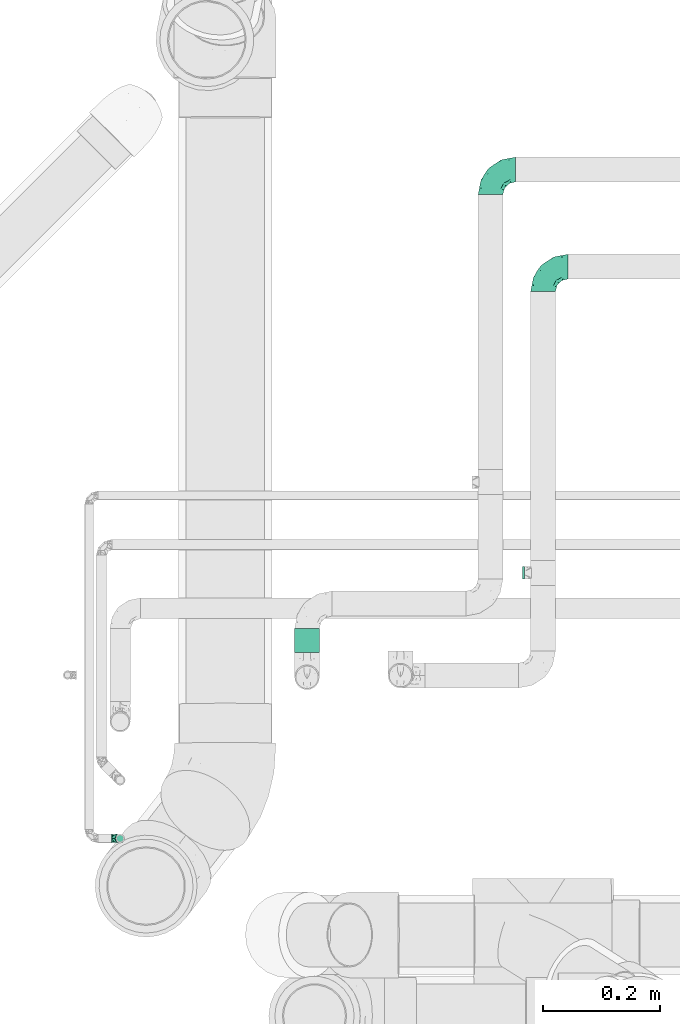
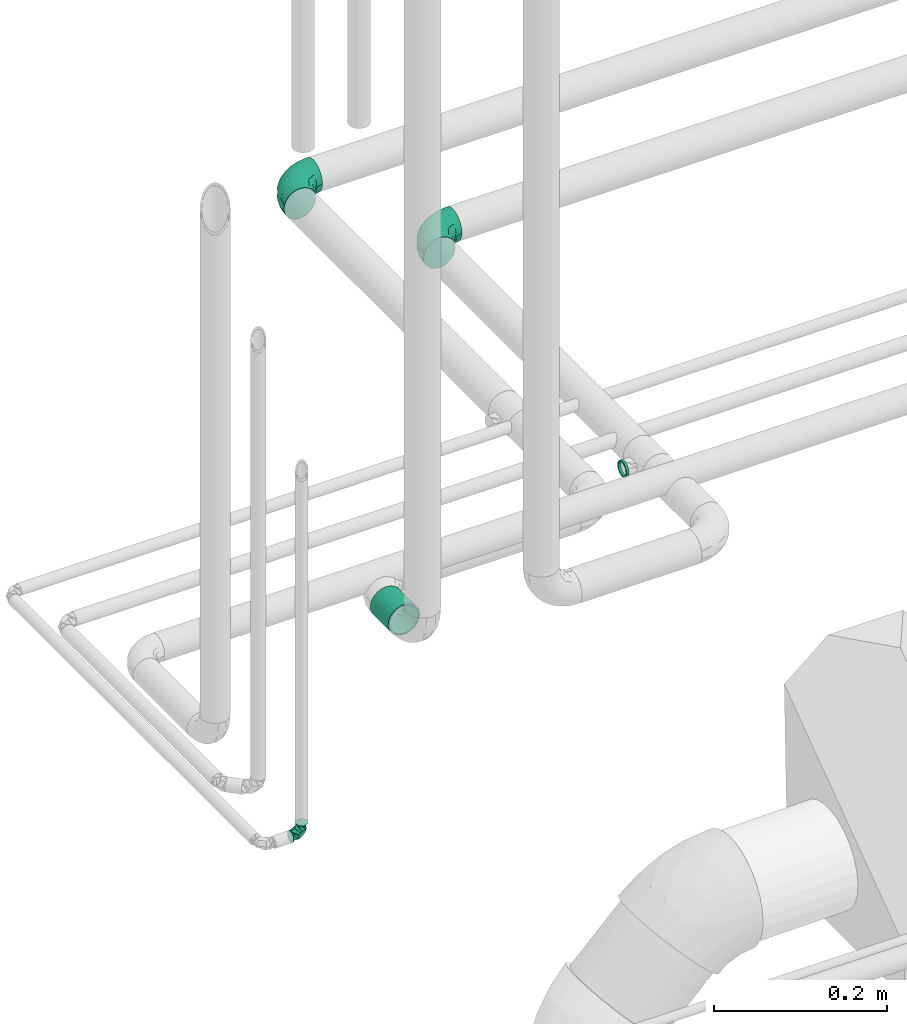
# One storey, part 90 of 156: 3 flow fittings, 2 flow segments.
"""IFC2X3 building model written with IfcOpenShell, lengths in millimetres."""

from ifc_helpers import new_model, entity, si_unit, converted_unit, derived_unit, direction, frame, origin_with_axes, origin_2d_with_axis, place, context, subcontext, project, spatial, hollow_circle, extrude, open_shell, surface_model, source, transform, mapped, type_object, element, save


model = new_model("IFC2X3")

# Units and contexts
model_context = context("Model", 3, precision=0.01, world=frame((0.0, 4.29681676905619e-09, 0.0)), true_north=direction((4.01073788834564e-13, 1.0)))
plan_context = context("Plan", 3, precision=0.01, world=frame((0.0, 4.29681676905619e-09, 0.0)), true_north=direction((4.01073788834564e-13, 1.0)))
body_context = subcontext(model_context, "Body", "Model", "MODEL_VIEW")
ifc_project = project(units=[converted_unit("PLANEANGLEUNIT", "DEGREE", entity("IfcPositiveLengthMeasure", 0.0174532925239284), si_unit("PLANEANGLEUNIT", "RADIAN"), dimensions=[0, 0, 0, 0, 0, 0, 0]), si_unit("AREAUNIT", "SQUARE_METRE"), si_unit("LENGTHUNIT", "METRE", prefix="MILLI"), si_unit("MASSUNIT", "GRAM", prefix="KILO"), si_unit("POWERUNIT", "WATT"), si_unit("PRESSUREUNIT", "PASCAL", prefix="KILO"), si_unit("FORCEUNIT", "NEWTON", prefix="KILO"), si_unit("ELECTRICVOLTAGEUNIT", "VOLT"), si_unit("ELECTRICCURRENTUNIT", "AMPERE"), si_unit("THERMODYNAMICTEMPERATUREUNIT", "DEGREE_CELSIUS"), si_unit("TIMEUNIT", "SECOND"), si_unit("VOLUMEUNIT", "CUBIC_METRE"), derived_unit("LINEARVELOCITYUNIT", [(si_unit("LENGTHUNIT", "METRE"), 1), (si_unit("TIMEUNIT", "SECOND"), -1)]), derived_unit("VOLUMETRICFLOWRATEUNIT", [(si_unit("VOLUMEUNIT", "CUBIC_METRE"), 1), (si_unit("TIMEUNIT", "SECOND"), -1)]), derived_unit("THERMALTRANSMITTANCEUNIT", [(si_unit("POWERUNIT", "WATT"), 1), (si_unit("THERMODYNAMICTEMPERATUREUNIT", "KELVIN"), -1), (si_unit("AREAUNIT", "SQUARE_METRE"), -1)]), derived_unit("SOUNDPRESSUREUNIT", [(si_unit("PRESSUREUNIT", "PASCAL"), 1)])], contexts=[model_context, plan_context])

# Site, building, storey
site_placement = place(None, frame((0.0, -4.29681676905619e-09, 0.0), z_axis=(0.0, 0.0, 1.0), x_axis=(1.0, 0.0, 0.0)))
site = spatial("IfcSite", under=ifc_project, at=site_placement, CompositionType="ELEMENT")
building_placement = place(site_placement, frame((0.0, 4.29681676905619e-09, 0.0), z_axis=(0.0, 0.0, 1.0), x_axis=(1.0, 0.0, 0.0)))
building = spatial("IfcBuilding", under=site, at=building_placement, Name="mc-building", CompositionType="ELEMENT")
storey_placement = place(building_placement, frame((0.0, 0.0, 205200.0), z_axis=(0.0, 0.0, 1.0), x_axis=(1.0, 0.0, 0.0)))
storey = spatial("IfcBuildingStorey", under=building, at=storey_placement, Name="Nivå D + 1,2 m", CompositionType="ELEMENT", Elevation=205200.0)

# Flow fittings
pipe_fitting_type_1 = type_object("IfcPipeFittingType", Name="magi_pipe_fe_elbow_short_001", PredefinedType="BEND")
shared_shape_1 = source(origin_with_axes(), body_context, "Body", "SurfaceModel", [
    surface_model("IfcShellBasedSurfaceModel", [(-42.4, 10.6, -18.35974), (-42.4, 5.48696, -20.47763), (-42.4, 0.0, -21.2), (-42.4, 14.99066, -14.99066), (-42.4, 20.47763, -5.48696), (-42.4, 18.35974, -10.6), (-42.4, -14.99066, 14.99066), (-42.4, -21.2, 0.0), (-42.4, -10.6, -18.35974), (-42.4, -14.99066, -14.99066), (-42.4, -5.48696, -20.47763), (-42.4, -18.35974, -10.6), (-42.4, -20.47763, -5.48696), (-42.4, 10.6, 18.35974), (-42.4, 20.47763, 5.48696), (-42.4, 18.35974, 10.6), (-42.4, 14.99066, 14.99066), (-42.4, 5.48696, 20.47763), (-42.4, 0.0, 21.2), (-42.4, -20.47763, 5.48696), (-42.4, -18.35974, 10.6), (-42.4, -10.6, 18.35974), (-42.4, -5.48696, 20.47763), (-42.4, 21.2, 0.0), (0.0, 42.4, -21.2), (-5.48696, 42.4, -20.47763), (-10.6, 42.4, -18.35974), (-14.99066, 42.4, -14.99066), (-18.35974, 42.4, -10.6), (-20.47763, 42.4, -5.48696), (21.2, 42.4, 0.0), (5.48696, 42.4, -20.47763), (14.99066, 42.4, -14.99066), (10.6, 42.4, -18.35974), (18.35974, 42.4, -10.6), (20.47763, 42.4, -5.48696), (14.99066, 42.4, 14.99066), (-20.47763, 42.4, 5.48696), (-10.6, 42.4, 18.35974), (-14.99066, 42.4, 14.99066), (-18.35974, 42.4, 10.6), (-5.48696, 42.4, 20.47763), (0.0, 42.4, 21.2), (18.35974, 42.4, 10.6), (20.47763, 42.4, 5.48696), (5.48696, 42.4, 20.47763), (10.6, 42.4, 18.35974), (-21.2, 42.4, 0.0), (-31.10239, -16.47009, 11.90111), (-27.83957, -12.231, 15.79732), (-30.23067, -18.77937, 0.0), (-18.74048, -13.50096, 10.69998), (-28.17586, -18.50359, 6.61185), (18.50359, 28.17586, 6.61185), (14.95929, 16.60735, 5.43468), (16.35874, 18.06133, 0.0), (-20.72313, 33.83635, 9.21426), (-17.70981, 33.00599, 13.92769), (-31.16033, -8.01664, 19.07348), (-32.38682, -2.80842, 20.83743), (-29.68688, 3.24967, 21.16387), (-7.74467, -9.46536, 0.0), (-16.60735, -14.95929, 5.43468), (-18.06133, -16.35874, 0.0), (-16.37932, -5.14532, 17.61254), (-21.10659, -0.19025, 20.54817), (-1.82445, -3.58377, 9.55223), (-0.35533, 0.43745, 12.66367), (-7.20655, -5.07682, 13.06146), (-33.14056, 17.6728, 13.91288), (-7.36799, 20.84806, 21.16196), (-15.70315, 15.70315, 20.68489), (-12.62356, 9.26422, 21.0908), (-36.67879, 12.83836, 17.27427), (-7.91358, 36.5686, 19.85759), (-2.90555, 31.71221, 21.14793), (-33.84689, 20.71971, 9.21285), (-33.51649, 22.58113, 4.66115), (-26.3226, 26.3226, 7.92474), (-32.67995, 8.31454, 20.02643), (-5.53379, 14.19921, 20.81623), (-10.53385, 3.88918, 19.79653), (-2.16577, 11.45378, 19.48254), (-3.78693, 3.78693, 17.3328), (12.231, 27.83957, 15.79732), (13.50096, 18.74047, 10.69998), (16.47009, 31.10239, 11.90111), (-22.53806, 14.38475, 19.60876), (-23.29615, 9.08095, 20.82061), (2.80842, 32.38682, 20.83743), (8.01664, 31.16033, 19.07348), (5.14532, 16.37932, 17.61254), (18.77937, 30.23067, 0.0), (-20.80278, 5.19491, 21.19095), (-19.62579, 22.38752, 17.42006), (-29.19336, 14.39093, 17.85259), (-22.31569, 34.20044, 4.54807), (-26.56962, 27.80621, 3.73106), (9.67657, 17.17133, 14.49993), (-24.04026, 31.8, 0.0), (-9.16861, 28.72652, 20.19004), (-12.09761, 21.9456, 20.37969), (-15.36991, 27.40112, 17.818), (-16.88976, 20.52477, 19.2896), (-12.95169, 35.54896, 17.36222), (-17.17133, -9.67657, 14.49993), (-21.98655, 28.10245, 11.99898), (-22.34699, 23.67592, 15.01692), (-27.22822, 22.77969, 11.82161), (0.19025, 21.10658, 20.54817), (4.8276, 7.36347, 13.42842), (-10.06209, -9.46364, 9.95114), (1.25876, -2.7536, 5.73797), (6.43781, 3.77591, 7.40371), (6.57528, 2.20066, 3.17705), (10.91934, 8.84313, 5.00748), (10.64415, 10.99764, 8.89767), (-31.8, 24.04026, 0.0), (-5.71381, -8.43063, 6.15529), (2.57199, -2.57199, 0.0), (9.46536, 7.74467, 0.0), (-17.17133, -9.67657, -14.49993), (-27.83957, -12.231, -15.79732), (-16.37932, -5.14532, -17.61254), (-18.74048, -13.50096, -10.69998), (-33.00599, 17.70981, -13.92769), (-35.54896, 12.95169, -17.36222), (-34.20044, 22.31569, -4.54807), (-28.17586, -18.50359, -6.61185), (-26.3226, 26.3226, -7.92474), (-33.83635, 20.72313, -9.21426), (-16.60735, -14.95929, -5.43468), (-20.52477, 16.88976, -19.2896), (-21.9456, 12.0976, -20.37969), (-27.40112, 15.36991, -17.818), (-12.83836, 36.67879, -17.27427), (-17.6728, 33.14056, -13.91288), (8.01664, 31.16033, -19.07348), (5.14532, 16.37932, -17.61254), (0.19025, 21.10658, -20.54817), (-36.5686, 7.91358, -19.85759), (-31.10239, -16.47009, -11.90111), (-31.16033, -8.01664, -19.07348), (-14.38475, 22.53806, -19.60876), (-8.31454, 32.67995, -20.02643), (-9.08095, 23.29615, -20.82061), (-32.38682, -2.80842, -20.83743), (-20.84806, 7.36799, -21.16196), (-15.70315, 15.70314, -20.68489), (-9.26422, 12.62356, -21.0908), (-31.71221, 2.90555, -21.14793), (-22.58113, 33.51649, -4.66115), (-20.71971, 33.84689, -9.21285), (-28.72652, 9.16861, -20.19004), (-27.80621, 26.56962, -3.73106), (-5.19491, 20.80278, -21.19095), (-22.38752, 19.62579, -17.42006), (-14.39093, 29.19336, -17.85259), (2.80842, 32.38682, -20.83743), (-3.24967, 29.68688, -21.16387), (16.47009, 31.10239, -11.90111), (12.231, 27.83957, -15.79732), (6.57528, 2.20067, -3.17705), (10.91934, 8.84313, -5.00749), (-14.19921, 5.53379, -20.81623), (-3.88918, 10.53385, -19.79653), (-11.45378, 2.16577, -19.48254), (1.25876, -2.7536, -5.73797), (-5.71381, -8.43063, -6.15529), (-1.82445, -3.58377, -9.55223), (13.50096, 18.74048, -10.69998), (18.50359, 28.17586, -6.61185), (14.95929, 16.60735, -5.43468), (-28.10245, 21.98655, -11.99898), (9.67657, 17.17133, -14.49993), (10.64415, 10.99764, -8.89767), (4.8276, 7.36347, -13.42842), (-23.67592, 22.34699, -15.01692), (-22.77969, 27.22822, -11.82161), (-21.10658, -0.19025, -20.54817), (-3.78693, 3.78693, -17.3328), (-7.20655, -5.07682, -13.06146), (-10.06209, -9.46364, -9.95113), (-0.35533, 0.43745, -12.66367), (6.43781, 3.77591, -7.40371)], [open_shell([[[0, 1, 2]], [[3, 0, 2]], [[4, 5, 3]], [[2, 4, 3]], [[6, 2, 7]], [[8, 9, 10]], [[11, 10, 9]], [[12, 7, 11]], [[2, 10, 11]], [[11, 7, 2]], [[6, 4, 2]], [[13, 14, 4]], [[15, 14, 16]], [[4, 6, 13]], [[16, 14, 13]], [[17, 13, 18]], [[19, 20, 7]], [[7, 20, 6]], [[21, 22, 6]], [[18, 6, 22]], [[6, 18, 13]], [[23, 4, 14]], [[24, 25, 26]], [[24, 26, 27]], [[27, 28, 29]], [[27, 29, 24]], [[24, 29, 30]], [[31, 32, 33]], [[31, 24, 32]], [[34, 30, 35]], [[32, 24, 34]], [[24, 30, 34]], [[29, 36, 30]], [[29, 37, 38]], [[39, 37, 40]], [[36, 29, 38]], [[38, 37, 39]], [[41, 42, 38]], [[30, 43, 44]], [[36, 43, 30]], [[36, 45, 46]], [[45, 36, 42]], [[38, 42, 36]], [[37, 29, 47]], [[6, 48, 49]], [[19, 7, 50]], [[51, 48, 52]], [[53, 54, 55]], [[48, 6, 20]], [[19, 52, 20]], [[40, 56, 57]], [[49, 21, 6]], [[49, 58, 21]], [[18, 59, 60]], [[61, 62, 63]], [[58, 64, 65]], [[66, 67, 68]], [[15, 16, 69]], [[70, 71, 72]], [[13, 73, 16]], [[22, 59, 18]], [[41, 74, 75]], [[18, 60, 17]], [[15, 69, 76]], [[16, 73, 69]], [[23, 14, 77]], [[14, 15, 76]], [[77, 76, 78]], [[17, 79, 13]], [[80, 81, 82]], [[68, 83, 64]], [[84, 36, 46]], [[85, 86, 84]], [[87, 79, 88]], [[21, 58, 22]], [[42, 89, 45]], [[53, 44, 43]], [[42, 41, 75]], [[84, 90, 91]], [[43, 86, 53]], [[92, 44, 53]], [[86, 43, 36]], [[90, 46, 45]], [[53, 55, 92]], [[88, 93, 72]], [[54, 53, 85]], [[87, 94, 95]], [[78, 96, 97]], [[98, 84, 91]], [[99, 96, 47]], [[79, 17, 60]], [[96, 78, 56]], [[62, 52, 63]], [[57, 39, 40]], [[100, 70, 75]], [[101, 102, 103]], [[19, 50, 52]], [[104, 38, 39]], [[74, 41, 38]], [[57, 102, 104]], [[105, 64, 49]], [[90, 84, 46]], [[40, 37, 56]], [[56, 106, 57]], [[102, 57, 107]], [[95, 107, 69]], [[76, 108, 78]], [[100, 101, 70]], [[89, 75, 109]], [[64, 58, 49]], [[63, 52, 50]], [[59, 58, 65]], [[105, 49, 51]], [[64, 83, 81]], [[89, 90, 45]], [[30, 44, 92]], [[109, 82, 91]], [[109, 91, 90]], [[91, 83, 110]], [[111, 68, 105]], [[66, 68, 111]], [[62, 51, 52]], [[66, 112, 113]], [[114, 115, 113]], [[98, 85, 84]], [[52, 48, 20]], [[49, 48, 51]], [[84, 86, 36]], [[53, 86, 85]], [[88, 79, 60]], [[73, 79, 95]], [[96, 56, 37]], [[78, 108, 106]], [[87, 103, 94]], [[100, 74, 104]], [[108, 69, 107]], [[78, 97, 77]], [[88, 72, 71]], [[109, 75, 70]], [[81, 72, 65]], [[70, 72, 80]], [[75, 89, 42]], [[90, 89, 109]], [[58, 59, 22]], [[60, 59, 65]], [[67, 83, 68]], [[110, 113, 116]], [[88, 60, 93]], [[87, 88, 71]], [[103, 87, 71]], [[79, 87, 95]], [[101, 103, 71]], [[94, 103, 102]], [[47, 96, 37]], [[96, 99, 97]], [[99, 117, 97]], [[97, 117, 77]], [[23, 77, 117]], [[14, 76, 77]], [[60, 65, 93]], [[65, 72, 93]], [[70, 101, 71]], [[102, 101, 100]], [[69, 108, 76]], [[106, 108, 107]], [[57, 106, 107]], [[78, 106, 56]], [[57, 104, 39]], [[100, 104, 102]], [[102, 107, 94]], [[95, 94, 107]], [[64, 81, 65]], [[82, 81, 83]], [[91, 82, 83]], [[80, 82, 109]], [[70, 80, 109]], [[81, 80, 72]], [[79, 73, 13]], [[69, 73, 95]], [[104, 74, 38]], [[75, 74, 100]], [[62, 61, 118]], [[111, 62, 118]], [[113, 115, 116]], [[119, 118, 61]], [[111, 105, 51]], [[113, 112, 114]], [[120, 55, 54]], [[68, 64, 105]], [[91, 110, 98]], [[116, 98, 110]], [[62, 111, 51]], [[66, 111, 118]], [[112, 66, 118]], [[67, 113, 110]], [[118, 119, 112]], [[114, 112, 119]], [[119, 120, 114]], [[115, 120, 54]], [[120, 115, 114]], [[116, 54, 85]], [[54, 116, 115]], [[116, 85, 98]], [[113, 67, 66]], [[83, 67, 110]], [[121, 122, 123]], [[122, 121, 124]], [[5, 125, 3]], [[3, 126, 0]], [[117, 127, 23]], [[50, 12, 128]], [[127, 129, 130]], [[128, 131, 63]], [[132, 133, 134]], [[27, 135, 136]], [[137, 138, 139]], [[0, 140, 1]], [[128, 11, 141]], [[142, 8, 10]], [[128, 63, 50]], [[5, 4, 130]], [[11, 9, 141]], [[143, 144, 145]], [[146, 10, 2]], [[147, 148, 149]], [[11, 128, 12]], [[124, 141, 122]], [[150, 2, 1]], [[151, 152, 129]], [[125, 134, 126]], [[153, 147, 150]], [[127, 154, 129]], [[145, 155, 149]], [[47, 29, 151]], [[143, 156, 157]], [[152, 29, 28]], [[24, 158, 159]], [[122, 9, 8]], [[27, 26, 135]], [[144, 26, 25]], [[32, 160, 161]], [[24, 31, 158]], [[120, 162, 163]], [[130, 125, 5]], [[27, 136, 28]], [[1, 140, 150]], [[33, 161, 137]], [[142, 122, 8]], [[24, 159, 25]], [[164, 165, 166]], [[167, 168, 169]], [[34, 160, 32]], [[161, 33, 32]], [[170, 160, 171]], [[131, 128, 124]], [[30, 92, 35]], [[35, 92, 171]], [[172, 171, 55]], [[35, 171, 34]], [[144, 25, 159]], [[130, 173, 125]], [[174, 175, 176]], [[136, 152, 28]], [[33, 137, 31]], [[122, 142, 123]], [[134, 125, 177]], [[157, 177, 136]], [[152, 178, 129]], [[153, 133, 147]], [[146, 150, 179]], [[146, 142, 10]], [[7, 12, 50]], [[179, 166, 123]], [[179, 123, 142]], [[123, 180, 181]], [[138, 137, 161]], [[55, 171, 92]], [[158, 137, 139]], [[174, 161, 170]], [[138, 180, 165]], [[180, 138, 176]], [[124, 121, 182]], [[176, 183, 180]], [[61, 131, 168]], [[169, 168, 182]], [[172, 170, 171]], [[122, 141, 9]], [[128, 141, 124]], [[171, 160, 34]], [[161, 160, 170]], [[145, 144, 159]], [[135, 144, 157]], [[127, 130, 4]], [[129, 178, 173]], [[143, 132, 156]], [[153, 140, 126]], [[178, 136, 177]], [[129, 154, 151]], [[145, 149, 148]], [[179, 150, 147]], [[165, 149, 139]], [[147, 149, 164]], [[150, 146, 2]], [[142, 146, 179]], [[137, 158, 31]], [[159, 158, 139]], [[174, 138, 161]], [[184, 169, 183]], [[145, 159, 155]], [[143, 145, 148]], [[132, 143, 148]], [[144, 143, 157]], [[133, 132, 148]], [[156, 132, 134]], [[23, 127, 4]], [[127, 117, 154]], [[117, 99, 154]], [[154, 99, 151]], [[47, 151, 99]], [[29, 152, 151]], [[159, 139, 155]], [[139, 149, 155]], [[147, 133, 148]], [[134, 133, 153]], [[136, 178, 152]], [[173, 178, 177]], [[125, 173, 177]], [[129, 173, 130]], [[125, 126, 3]], [[153, 126, 134]], [[134, 177, 156]], [[157, 156, 177]], [[138, 165, 139]], [[166, 165, 180]], [[123, 166, 180]], [[164, 166, 179]], [[147, 164, 179]], [[165, 164, 149]], [[144, 135, 26]], [[136, 135, 157]], [[126, 140, 0]], [[150, 140, 153]], [[182, 131, 124]], [[168, 119, 61]], [[119, 167, 162]], [[63, 131, 61]], [[172, 163, 175]], [[172, 55, 120]], [[123, 181, 121]], [[182, 121, 181]], [[175, 174, 170]], [[176, 138, 174]], [[169, 182, 181]], [[131, 182, 168]], [[183, 169, 181]], [[167, 169, 184]], [[162, 167, 184]], [[119, 168, 167]], [[163, 162, 184]], [[120, 119, 162]], [[175, 163, 184]], [[120, 163, 172]], [[176, 175, 184]], [[172, 175, 170]], [[180, 183, 181]], [[184, 183, 176]]])]),
])
for number, where, z_axis, x_axis, name in (
    (1, (324853.30442, 463869.78191, 4303.5), (0.0, 0.0, 1.0), (-1.0, 0.0, 0.0), "magi_pipe_fe_elbow_short_001"),
    (2, (324763.30442, 464036.1423, 4303.5), (0.0, 0.0, 1.0), (-1.0, 0.0, 0.0), "magi_pipe_fe_elbow_short_001"),
):
    element("IfcFlowFitting", number, at=place(storey_placement, frame(where, z_axis=z_axis, x_axis=x_axis)), inside=storey, type_object=pipe_fitting_type_1, Name=name, context=body_context, shape_type="MappedRepresentation", body=[
        mapped(shared_shape_1, transform((0.0, 0.0, 0.0), scale=1.0)),
    ])
pipe_fitting_type_2 = type_object("IfcPipeFittingType", Name="magi_pipe_elbow_short_001", PredefinedType="BEND")
shared_shape_2 = source(origin_with_axes(), body_context, "Body", "SurfaceModel", [
    surface_model("IfcShellBasedSurfaceModel", [(-15.0, 0.0, -7.5), (-15.0, -6.49519, -3.75), (-15.0, 1.94114, -7.24444), (-15.0, 3.75, -6.49519), (-15.0, 5.3033, -5.3033), (-15.0, 7.24444, -1.94114), (-15.0, 6.49519, -3.75), (-15.0, -5.3033, -5.3033), (-15.0, -3.75, -6.49519), (-15.0, -1.94114, -7.24444), (-15.0, -7.24444, -1.94114), (-15.0, -7.5, 0.0), (-15.0, -6.49519, 3.75), (-15.0, 7.24444, 1.94114), (-15.0, 6.49519, 3.75), (-15.0, 3.75, 6.49519), (-15.0, 1.94114, 7.24444), (-15.0, 5.3033, 5.3033), (-15.0, -5.3033, 5.3033), (-15.0, -7.24444, 1.94114), (-15.0, -1.94114, 7.24444), (-15.0, 0.0, 7.5), (-15.0, -3.75, 6.49519), (-15.0, 7.5, 0.0), (-1.94114, 15.0, -7.24444), (6.49519, 15.0, -3.75), (0.0, 15.0, -7.5), (-5.3033, 15.0, -5.3033), (-3.75, 15.0, -6.49519), (-6.49519, 15.0, -3.75), (-7.24444, 15.0, -1.94114), (3.75, 15.0, -6.49519), (5.3033, 15.0, -5.3033), (1.94114, 15.0, -7.24444), (7.5, 15.0, 0.0), (7.24444, 15.0, -1.94114), (-7.24444, 15.0, 1.94114), (6.49519, 15.0, 3.75), (-3.75, 15.0, 6.49519), (-6.49519, 15.0, 3.75), (-1.94114, 15.0, 7.24444), (-5.3033, 15.0, 5.3033), (5.3033, 15.0, 5.3033), (7.24444, 15.0, 1.94114), (3.75, 15.0, 6.49519), (0.0, 15.0, 7.5), (1.94114, 15.0, 7.24444), (-7.5, 15.0, 0.0), (-13.40845, -7.07355, 0.0), (-8.7589, -2.47707, 6.60232), (-8.6338, -5.79418, 0.0), (-3.75, -4.48557, 0.0), (0.36779, -0.36779, 0.0), (2.42668, 1.69111, 0.0), (-2.25176, 0.98822, 6.3797), (-1.69111, -2.42668, 0.0), (-11.8169, -6.64709, 0.0), (-5.9304, 5.9304, 7.17811), (-4.11647, 8.02676, 7.20749), (2.47708, 8.7589, 6.60232), (1.67739, 4.87408, 5.99192), (4.48557, 3.75, 0.0), (-4.78013, -1.73268, 5.91836), (7.07355, 13.40845, 0.0), (6.64709, 11.8169, 0.0), (-8.02675, 4.11647, 7.20749), (-8.59835, 12.34835, 0.0), (-12.34835, 8.59835, 0.0), (-9.6967, 9.6967, 0.0), (5.79418, 8.6338, 0.0), (-8.7589, -2.47707, -6.60232), (-4.11647, 8.02676, -7.20749), (0.71542, 3.43733, -5.99192), (-2.23993, 1.78364, -6.69976), (2.47708, 8.7589, -6.60232), (-11.39207, 6.08032, -5.22727), (-7.08629, 1.82323, -7.49084), (-8.19523, 6.76007, -6.13545)], [open_shell([[[0, 1, 2]], [[3, 2, 4]], [[5, 6, 4]], [[4, 2, 1]], [[5, 4, 1]], [[7, 1, 8]], [[9, 8, 1]], [[10, 11, 1]], [[0, 9, 1]], [[11, 12, 1]], [[12, 5, 1]], [[13, 5, 12]], [[14, 13, 15]], [[13, 16, 15]], [[17, 14, 15]], [[16, 13, 12]], [[12, 18, 16]], [[12, 11, 19]], [[20, 21, 22]], [[18, 22, 21]], [[16, 18, 21]], [[13, 23, 5]], [[24, 25, 26]], [[27, 24, 28]], [[27, 29, 30]], [[25, 24, 27]], [[25, 27, 30]], [[31, 25, 32]], [[25, 31, 33]], [[25, 34, 35]], [[25, 33, 26]], [[30, 34, 25]], [[30, 36, 34]], [[34, 36, 37]], [[38, 36, 39]], [[38, 40, 36]], [[38, 39, 41]], [[37, 36, 40]], [[40, 42, 37]], [[43, 34, 37]], [[44, 45, 46]], [[45, 44, 42]], [[45, 42, 40]], [[36, 30, 47]], [[19, 48, 12]], [[49, 50, 51]], [[52, 53, 54]], [[54, 55, 52]], [[22, 18, 56]], [[12, 56, 18]], [[57, 54, 58]], [[22, 50, 20]], [[21, 20, 50]], [[59, 60, 61]], [[59, 58, 60]], [[55, 54, 62]], [[21, 50, 49]], [[21, 49, 16]], [[62, 49, 51]], [[62, 51, 55]], [[37, 63, 43]], [[49, 15, 16]], [[64, 63, 37]], [[13, 65, 23]], [[14, 17, 49]], [[54, 65, 62]], [[15, 49, 17]], [[57, 58, 66]], [[67, 57, 68]], [[53, 60, 54]], [[46, 45, 69]], [[69, 44, 46]], [[41, 59, 38]], [[40, 59, 45]], [[42, 44, 64]], [[54, 60, 58]], [[64, 44, 69]], [[61, 60, 53]], [[43, 63, 34]], [[59, 61, 69]], [[58, 47, 66]], [[22, 56, 50]], [[54, 57, 65]], [[49, 65, 14]], [[36, 47, 58]], [[64, 37, 42]], [[39, 36, 58]], [[14, 65, 13]], [[41, 39, 59]], [[19, 11, 48]], [[39, 58, 59]], [[48, 56, 12]], [[38, 59, 40]], [[59, 69, 45]], [[49, 62, 65]], [[57, 67, 65]], [[66, 68, 57]], [[67, 23, 65]], [[70, 50, 0]], [[71, 72, 73]], [[74, 71, 29]], [[70, 2, 3]], [[70, 51, 50]], [[35, 34, 63]], [[75, 4, 6]], [[75, 5, 23]], [[6, 5, 75]], [[51, 76, 55]], [[75, 23, 67]], [[70, 4, 75]], [[48, 11, 10]], [[8, 56, 7]], [[0, 50, 9]], [[51, 70, 76]], [[56, 8, 50]], [[8, 9, 50]], [[70, 0, 2]], [[66, 47, 71]], [[52, 72, 53]], [[4, 70, 3]], [[70, 75, 76]], [[73, 52, 55]], [[71, 68, 66]], [[61, 53, 72]], [[31, 64, 69]], [[30, 71, 47]], [[27, 74, 29]], [[56, 1, 7]], [[28, 24, 74]], [[63, 64, 25]], [[56, 48, 1]], [[28, 74, 27]], [[1, 48, 10]], [[26, 74, 24]], [[33, 69, 26]], [[29, 71, 30]], [[32, 64, 31]], [[69, 33, 31]], [[68, 71, 77]], [[74, 26, 69]], [[25, 35, 63]], [[61, 72, 74]], [[61, 74, 69]], [[67, 77, 75]], [[74, 72, 71]], [[25, 64, 32]], [[76, 77, 73]], [[75, 77, 76]], [[77, 71, 73]], [[55, 76, 73]], [[72, 52, 73]], [[77, 67, 68]]])]),
])
flow_fitting_placement = place(storey_placement, frame((324128.525, 462890.0, 4308.0), z_axis=(0.0, -1.0, 0.0), x_axis=(1.0, 0.0, 0.0)))
element("IfcFlowFitting", 3, at=flow_fitting_placement, inside=storey, type_object=pipe_fitting_type_2, Name="magi_pipe_elbow_short_001", context=body_context, shape_type="MappedRepresentation", body=[
    mapped(shared_shape_2, transform((0.0, 0.0, 0.0), scale=1.0)),
])

# Flow segments
pipe_segment_type = type_object("IfcPipeSegmentType", Name="Stålrør normaltykke", PredefinedType="RIGIDSEGMENT")
shared_shape_3 = source(origin_with_axes(), body_context, "Body", "SweptSolid", [
    extrude(hollow_circle(Radius=21.2, WallThickness=2.0, at=origin_2d_with_axis()), frame((0.0, 0.0, 0.0), z_axis=(1.0, 0.0, 0.0), x_axis=(0.0, 1.0, 0.0)), (0.0, 0.0, 1.0), 41.5),
])
flow_segment_1_placement = place(storey_placement, frame((324448.8625, 463250.0125, 4303.5), z_axis=(0.0, 0.0, 1.0), x_axis=(0.0, -1.0, 0.0)))
element("IfcFlowSegment", 4, at=flow_segment_1_placement, inside=storey, type_object=pipe_segment_type, Name="Stålrør normaltykke", context=body_context, shape_type="MappedRepresentation", body=[
    mapped(shared_shape_3, transform((0.0, 0.0, 0.0), scale=1.0)),
])
shared_shape_4 = source(origin_with_axes(), body_context, "Body", "SweptSolid", [
    extrude(hollow_circle(Radius=10.7, WallThickness=2.0, at=origin_2d_with_axis()), frame((0.0, 0.0, 0.0), z_axis=(1.0, 0.0, 0.0), x_axis=(0.0, 1.0, 0.0)), (0.0, 0.0, 1.0), 3.3),
])
flow_segment_2_placement = place(storey_placement, frame((324821.50442, 463345.02349, 4303.5), z_axis=(0.0, 0.0, 1.0), x_axis=(-1.0, 0.0, 0.0)))
element("IfcFlowSegment", 5, at=flow_segment_2_placement, inside=storey, type_object=pipe_segment_type, Name="Stålrør normaltykke", context=body_context, shape_type="MappedRepresentation", body=[
    mapped(shared_shape_4, transform((0.0, 0.0, 0.0), scale=1.0)),
])

save(model, "model.ifc")
